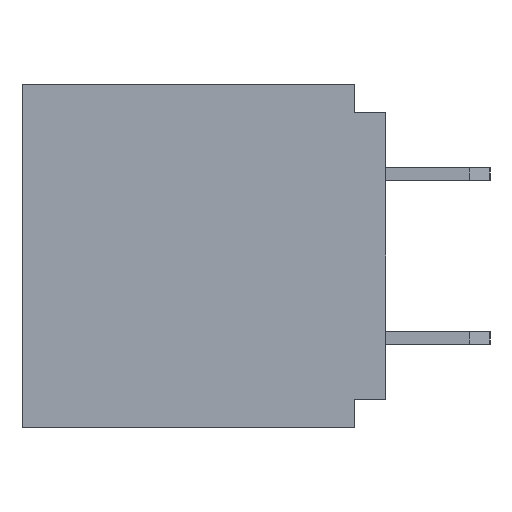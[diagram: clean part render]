
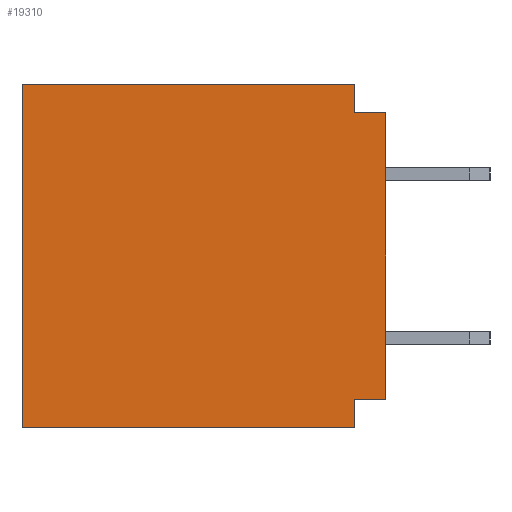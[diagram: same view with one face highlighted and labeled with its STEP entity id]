
A CAD part, left-side view. The second image highlights one B-rep face of the part: STEP entity #19310.
In plain terms, the highlighted planar face has unit normal (-1, 0, 0).
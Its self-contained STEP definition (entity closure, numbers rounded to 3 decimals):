
#9=DIRECTION('',(0.,-1.,0.));
#10=VECTOR('',#9,4.06);
#11=CARTESIAN_POINT('',(-19.095,2.22,-2.095));
#12=LINE('',#11,#10);
#1425=DIRECTION('',(0.,0.,1.));
#1426=VECTOR('',#1425,3.49);
#1427=CARTESIAN_POINT('',(-19.095,-2.22,-1.745));
#1428=LINE('',#1427,#1426);
#2001=DIRECTION('',(0.,1.,0.));
#2002=VECTOR('',#2001,0.38);
#2003=CARTESIAN_POINT('',(-19.095,-2.22,1.745));
#2004=LINE('',#2003,#2002);
#2005=DIRECTION('',(0.,1.,0.));
#2006=VECTOR('',#2005,0.38);
#2007=CARTESIAN_POINT('',(-19.095,-2.22,-1.745));
#2008=LINE('',#2007,#2006);
#2009=DIRECTION('',(0.,0.,1.));
#2010=VECTOR('',#2009,0.35);
#2011=CARTESIAN_POINT('',(-19.095,-1.84,-2.095));
#2012=LINE('',#2011,#2010);
#2013=DIRECTION('',(0.,0.,1.));
#2014=VECTOR('',#2013,4.19);
#2015=CARTESIAN_POINT('',(-19.095,2.22,-2.095));
#2016=LINE('',#2015,#2014);
#2017=DIRECTION('',(0.,0.,-1.));
#2018=VECTOR('',#2017,0.35);
#2019=CARTESIAN_POINT('',(-19.095,-1.84,2.095));
#2020=LINE('',#2019,#2018);
#7277=DIRECTION('',(0.,-1.,0.));
#7278=VECTOR('',#7277,4.06);
#7279=CARTESIAN_POINT('',(-19.095,2.22,2.095));
#7280=LINE('',#7279,#7278);
#13370=CARTESIAN_POINT('',(-19.095,2.22,-2.095));
#13372=VERTEX_POINT('',#13370);
#13374=CARTESIAN_POINT('',(-19.095,2.22,2.095));
#13376=VERTEX_POINT('',#13374);
#13665=CARTESIAN_POINT('',(-19.095,-2.22,1.745));
#13666=CARTESIAN_POINT('',(-19.095,-1.84,1.745));
#13667=VERTEX_POINT('',#13665);
#13668=VERTEX_POINT('',#13666);
#13669=CARTESIAN_POINT('',(-19.095,-1.84,2.095));
#13670=VERTEX_POINT('',#13669);
#13671=CARTESIAN_POINT('',(-19.095,-1.84,-2.095));
#13672=CARTESIAN_POINT('',(-19.095,-1.84,-1.745));
#13673=VERTEX_POINT('',#13671);
#13674=VERTEX_POINT('',#13672);
#13675=CARTESIAN_POINT('',(-19.095,-2.22,-1.745));
#13676=VERTEX_POINT('',#13675);
#19292=CARTESIAN_POINT('',(-19.095,2.22,-2.095));
#19293=DIRECTION('',(-1.,0.,0.));
#19294=DIRECTION('',(0.,-1.,0.));
#19295=AXIS2_PLACEMENT_3D('',#19292,#19293,#19294);
#19296=PLANE('',#19295);
#19297=ORIENTED_EDGE('',*,*,#19020,.F.);
#19298=ORIENTED_EDGE('',*,*,#18511,.F.);
#19300=ORIENTED_EDGE('',*,*,#19299,.T.);
#19301=ORIENTED_EDGE('',*,*,#17559,.F.);
#19302=ORIENTED_EDGE('',*,*,#17532,.F.);
#19304=ORIENTED_EDGE('',*,*,#19303,.T.);
#19306=ORIENTED_EDGE('',*,*,#19305,.T.);
#19307=ORIENTED_EDGE('',*,*,#17575,.T.);
#19308=EDGE_LOOP('',(#19297,#19298,#19300,#19301,#19302,#19304,#19306,#19307));
#19309=FACE_OUTER_BOUND('',#19308,.F.);
#19310=ADVANCED_FACE('',(#19309),#19296,.T.);
#17532=EDGE_CURVE('',#13372,#13673,#12,.T.);
#17559=EDGE_CURVE('',#13673,#13674,#2012,.T.);
#17575=EDGE_CURVE('',#13670,#13668,#2020,.T.);
#18511=EDGE_CURVE('',#13676,#13667,#1428,.T.);
#19020=EDGE_CURVE('',#13667,#13668,#2004,.T.);
#19299=EDGE_CURVE('',#13676,#13674,#2008,.T.);
#19303=EDGE_CURVE('',#13372,#13376,#2016,.T.);
#19305=EDGE_CURVE('',#13376,#13670,#7280,.T.);
